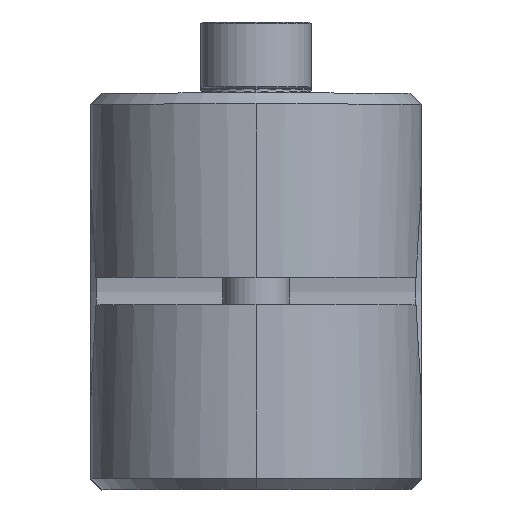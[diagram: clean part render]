
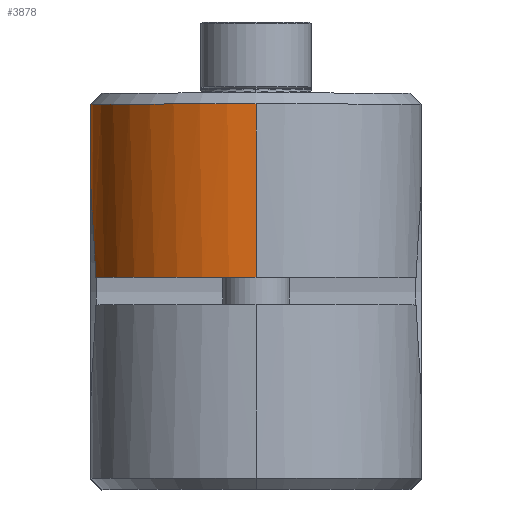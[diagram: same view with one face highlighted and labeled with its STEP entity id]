
A CAD part, top view. The second image highlights one B-rep face of the part: STEP entity #3878.
In plain terms, the highlighted cylindrical face has radius 15 mm (diameter 30 mm), a partial arc.
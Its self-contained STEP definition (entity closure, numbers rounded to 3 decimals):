
#3 = CARTESIAN_POINT ( 'NONE',  ( 16.103, 12.59, -8.573 ) ) ;
#163 = DIRECTION ( 'NONE',  ( -1., 0., 0. ) ) ;
#501 = EDGE_CURVE ( 'NONE', #8524, #6278, #3699, .T. ) ;
#732 = CARTESIAN_POINT ( 'NONE',  ( 13.569, 12.979, -2.035 ) ) ;
#824 = CIRCLE ( 'NONE', #4201, 15. ) ;
#893 = CARTESIAN_POINT ( 'NONE',  ( 13.696, 12.948, -2.814 ) ) ;
#983 = CARTESIAN_POINT ( 'NONE',  ( 17.071, 27.564, -1.25 ) ) ;
#1391 = ORIENTED_EDGE ( 'NONE', *, *, #6705, .F. ) ;
#1515 = FACE_OUTER_BOUND ( 'NONE', #7359, .T. ) ;
#1716 = AXIS2_PLACEMENT_3D ( 'NONE', #2385, #7492, #2285 ) ;
#2285 = DIRECTION ( 'NONE',  ( -1., 0., 0. ) ) ;
#2288 = CARTESIAN_POINT ( 'NONE',  ( 13.503, 12.995, -1.25 ) ) ;
#2385 = CARTESIAN_POINT ( 'NONE',  ( 17.071, 27.564, -1.25 ) ) ;
#2587 = CARTESIAN_POINT ( 'NONE',  ( 17.071, 12.564, -9.811 ) ) ;
#2710 = CARTESIAN_POINT ( 'NONE',  ( 2.071, 27.564, -1.25 ) ) ;
#2935 = CARTESIAN_POINT ( 'NONE',  ( 17.071, 12.564, 0. ) ) ;
#2992 = EDGE_CURVE ( 'NONE', #9389, #4760, #4958, .T. ) ;
#3117 = VECTOR ( 'NONE', #4240, 1000. ) ;
#3432 = AXIS2_PLACEMENT_3D ( 'NONE', #4619, #6244, #3992 ) ;
#3699 = LINE ( 'NONE', #2935, #7871 ) ;
#3878 = ADVANCED_FACE ( 'NONE', ( #1515 ), #6083, .T. ) ;
#3992 = DIRECTION ( 'NONE',  ( -1., 0., 0. ) ) ;
#4118 = B_SPLINE_CURVE_WITH_KNOTS ( 'NONE', 3,
 ( #2288, #732, #893, #8205, #6669, #4495, #6724, #3, #8110, #8920 ),
 .UNSPECIFIED., .F., .F.,
 ( 4, 2, 2, 2, 4 ),
 ( 0., 0.002, 0.005, 0.007, 0.009 ),
 .UNSPECIFIED. ) ;
#4201 = AXIS2_PLACEMENT_3D ( 'NONE', #983, #6775, #163 ) ;
#4240 = DIRECTION ( 'NONE',  ( 0., 0., -1. ) ) ;
#4283 = DIRECTION ( 'NONE',  ( 0., 0., 1. ) ) ;
#4450 = ORIENTED_EDGE ( 'NONE', *, *, #501, .T. ) ;
#4495 = CARTESIAN_POINT ( 'NONE',  ( 14.923, 12.716, -6.534 ) ) ;
#4619 = CARTESIAN_POINT ( 'NONE',  ( 17.071, 27.564, -17. ) ) ;
#4760 = VERTEX_POINT ( 'NONE', #6790 ) ;
#4958 = LINE ( 'NONE', #7892, #3117 ) ;
#5947 = ORIENTED_EDGE ( 'NONE', *, *, #8791, .F. ) ;
#6083 = CYLINDRICAL_SURFACE ( 'NONE', #1716, 15. ) ;
#6244 = DIRECTION ( 'NONE',  ( 0., 0., -1. ) ) ;
#6278 = VERTEX_POINT ( 'NONE', #2587 ) ;
#6508 = VERTEX_POINT ( 'NONE', #8000 ) ;
#6669 = CARTESIAN_POINT ( 'NONE',  ( 14.317, 12.816, -5.087 ) ) ;
#6705 = EDGE_CURVE ( 'NONE', #6508, #6278, #4118, .T. ) ;
#6724 = CARTESIAN_POINT ( 'NONE',  ( 15.281, 12.666, -7.234 ) ) ;
#6775 = DIRECTION ( 'NONE',  ( 0., 0., 1. ) ) ;
#6790 = CARTESIAN_POINT ( 'NONE',  ( 2.071, 27.564, -17. ) ) ;
#7191 = ORIENTED_EDGE ( 'NONE', *, *, #9150, .F. ) ;
#7359 = EDGE_LOOP ( 'NONE', ( #7191, #8018, #5947, #4450, #1391 ) ) ;
#7472 = CARTESIAN_POINT ( 'NONE',  ( 17.071, 12.564, -17. ) ) ;
#7492 = DIRECTION ( 'NONE',  ( 0., 0., -1. ) ) ;
#7871 = VECTOR ( 'NONE', #4283, 1000. ) ;
#7892 = CARTESIAN_POINT ( 'NONE',  ( 2.071, 27.564, -1.25 ) ) ;
#8000 = CARTESIAN_POINT ( 'NONE',  ( 13.503, 12.995, -1.25 ) ) ;
#8018 = ORIENTED_EDGE ( 'NONE', *, *, #2992, .T. ) ;
#8110 = CARTESIAN_POINT ( 'NONE',  ( 16.562, 12.564, -9.209 ) ) ;
#8205 = CARTESIAN_POINT ( 'NONE',  ( 14.07, 12.866, -4.338 ) ) ;
#8352 = CIRCLE ( 'NONE', #3432, 15. ) ;
#8524 = VERTEX_POINT ( 'NONE', #7472 ) ;
#8791 = EDGE_CURVE ( 'NONE', #8524, #4760, #8352, .T. ) ;
#8920 = CARTESIAN_POINT ( 'NONE',  ( 17.071, 12.564, -9.811 ) ) ;
#9150 = EDGE_CURVE ( 'NONE', #9389, #6508, #824, .T. ) ;
#9389 = VERTEX_POINT ( 'NONE', #2710 ) ;
